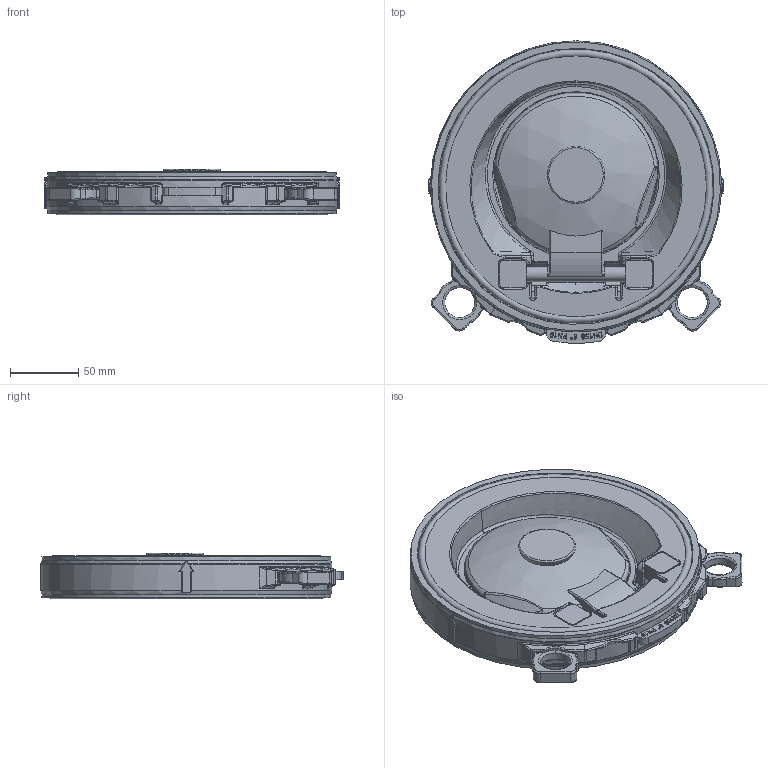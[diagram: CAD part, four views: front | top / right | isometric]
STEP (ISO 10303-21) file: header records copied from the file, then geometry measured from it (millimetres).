
FILE_DESCRIPTION(/* description */ ('Valvola a clapet d.160 - corpo','CAx-IF Rec.Pracs.---Representation and Presentation of Product Manufacturing Information (PMI)---3.8---2014-02-18'),/* implementation_level */ '2;1');
FILE_NAME(/* name */ 'C:\Users\POLYPIPE\Desktop\DATASET INVENTOR\LIBRERIA EFFAST\3D_VALVOLE\3D_VALVOLE A CLAPET\3D_CDRCKD1600 (00).stp',/* time_stamp */ '2018-04-20T14:15:32+02:00',/* author */ ('POLYPIPE'),/* organization */ ('Polypipe Italia'),/* preprocessor_version */ 'ST-DEVELOPER v16.1',/* originating_system */ 'Autodesk Inventor 2016',/* authorisation */ ' ');
FILE_SCHEMA (('AP242_MANAGED_MODEL_BASED_3D_ENGINEERING_MIM_LF { 1 0 10303 442 1 1 4 }'));
Products named in the file (7): CDRCCK1600 - 4 sedi (00); CDROTK1600 (00); CDRCCK1600 - asole (00); OR4425; OR6745; CDRCCK1600 - tappi (00); CDRCKD1600 (00)
Assembly tree (7 placements, depth 2):
  CDRCKD1600 (00)
    CDRCCK1600 - 4 sedi (00)
    CDROTK1600 (00)
    CDRCCK1600 - asole (00)
    OR4425
    OR6745  x2
    CDRCCK1600 - tappi (00)
Bounding box: 215.34 x 221.26 x 33.57 mm (x, y, z)
Volume: 743431.8 mm3; surface area: 177084.1 mm2
Topology: 9 solids, 9 shells, 1081 faces, 2797 edges, 1711 vertices
Faces by surface type: bspline 477, plane 293, cylinder 199, torus 49, sphere 38, cone 25
Full cylindrical faces by diameter (mm): 11 x1, 22 x2, 112 x1, 191 x2, 202 x2, 211.4 x2
Entity records: 137160 total; most frequent: CARTESIAN_POINT 113822, ORIENTED_EDGE 5394, DIRECTION 3845, EDGE_CURVE 2697, VERTEX_POINT 1691, AXIS2_PLACEMENT_3D 1435, EDGE_LOOP 1148, FACE_OUTER_BOUND 1080
